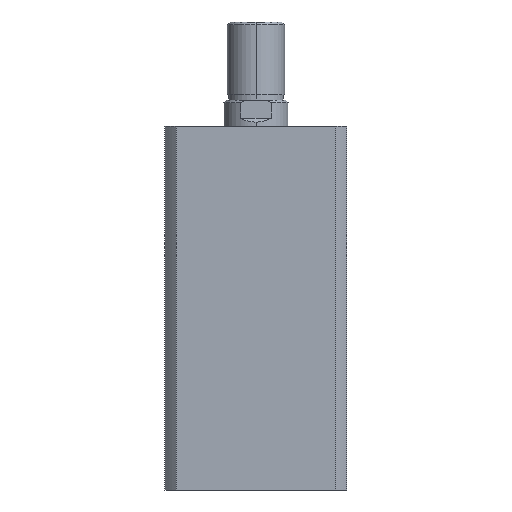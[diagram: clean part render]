
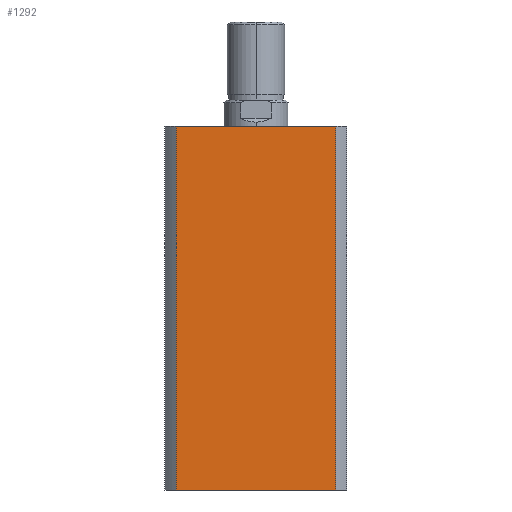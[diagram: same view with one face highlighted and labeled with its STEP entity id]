
A CAD part, left-side view. The second image highlights one B-rep face of the part: STEP entity #1292.
In plain terms, the highlighted planar face has unit normal (-1, 0, 0).
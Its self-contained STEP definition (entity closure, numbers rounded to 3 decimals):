
#105 = CARTESIAN_POINT ( 'NONE',  ( -35., 0., 140. ) ) ;
#112 = DIRECTION ( 'NONE',  ( 1., 0., 0. ) ) ;
#113 = DIRECTION ( 'NONE',  ( 0., 1., 0. ) ) ;
#121 = PLANE ( 'NONE',  #146 ) ;
#146 = AXIS2_PLACEMENT_3D ( 'NONE', #105, #112, #113 ) ;
#332 = VECTOR ( 'NONE', #2720, 1000. ) ;
#335 = LINE ( 'NONE', #2719, #332 ) ;
#336 = VECTOR ( 'NONE', #2728, 1000. ) ;
#337 = VECTOR ( 'NONE', #2716, 1000. ) ;
#338 = LINE ( 'NONE', #2721, #336 ) ;
#344 = LINE ( 'NONE', #2700, #337 ) ;
#953 = CARTESIAN_POINT ( 'NONE',  ( -35., -30.615, 0. ) ) ;
#959 = CARTESIAN_POINT ( 'NONE',  ( -35., 30.615, 0. ) ) ;
#1292 = ADVANCED_FACE ( 'NONE', ( #1732 ), #121, .F. ) ;
#1633 = LINE ( 'NONE', #2771, #1653 ) ;
#1653 = VECTOR ( 'NONE', #2772, 1000. ) ;
#1732 = FACE_OUTER_BOUND ( 'NONE', #4859, .T. ) ;
#2360 = VERTEX_POINT ( 'NONE', #4005 ) ;
#2401 = VERTEX_POINT ( 'NONE', #4046 ) ;
#2700 = CARTESIAN_POINT ( 'NONE',  ( -35., -30.615, 140. ) ) ;
#2716 = DIRECTION ( 'NONE',  ( 0., 0., -1. ) ) ;
#2719 = CARTESIAN_POINT ( 'NONE',  ( -35., 0., 140. ) ) ;
#2720 = DIRECTION ( 'NONE',  ( 0., -1., 0. ) ) ;
#2721 = CARTESIAN_POINT ( 'NONE',  ( -35., 30.615, 140. ) ) ;
#2728 = DIRECTION ( 'NONE',  ( 0., 0., -1. ) ) ;
#2771 = CARTESIAN_POINT ( 'NONE',  ( -35., 0., 0. ) ) ;
#2772 = DIRECTION ( 'NONE',  ( 0., -1., 0. ) ) ;
#3164 = ORIENTED_EDGE ( 'NONE', *, *, #5160, .T. ) ;
#3165 = ORIENTED_EDGE ( 'NONE', *, *, #5156, .F. ) ;
#3166 = ORIENTED_EDGE ( 'NONE', *, *, #5154, .F. ) ;
#3167 = ORIENTED_EDGE ( 'NONE', *, *, #5182, .T. ) ;
#4005 = CARTESIAN_POINT ( 'NONE',  ( -35., 30.615, 140. ) ) ;
#4046 = CARTESIAN_POINT ( 'NONE',  ( -35., -30.615, 140. ) ) ;
#4859 = EDGE_LOOP ( 'NONE', ( #3167, #3166, #3165, #3164 ) ) ;
#4981 = VERTEX_POINT ( 'NONE', #953 ) ;
#4988 = VERTEX_POINT ( 'NONE', #959 ) ;
#5154 = EDGE_CURVE ( 'NONE', #2401, #4981, #344, .T. ) ;
#5156 = EDGE_CURVE ( 'NONE', #2360, #2401, #335, .T. ) ;
#5160 = EDGE_CURVE ( 'NONE', #2360, #4988, #338, .T. ) ;
#5182 = EDGE_CURVE ( 'NONE', #4988, #4981, #1633, .T. ) ;
